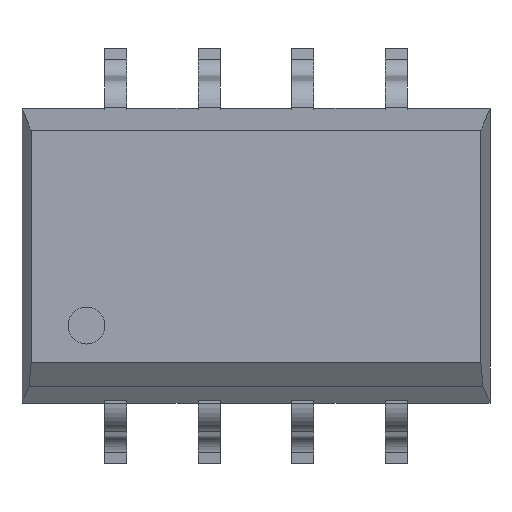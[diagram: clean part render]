
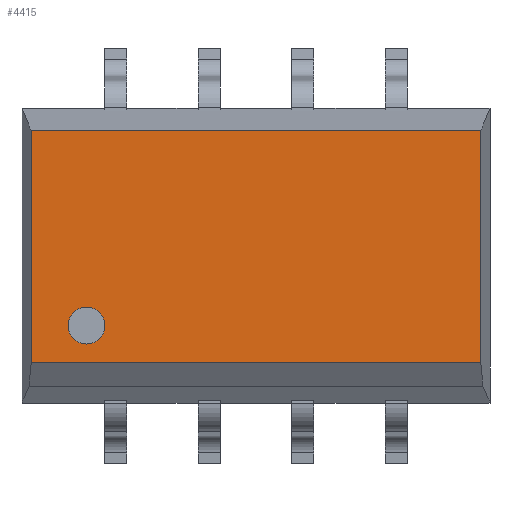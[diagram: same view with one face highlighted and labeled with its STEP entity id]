
A CAD part, top view. The second image highlights one B-rep face of the part: STEP entity #4415.
In plain terms, the highlighted planar face has unit normal (0, 0, 1).
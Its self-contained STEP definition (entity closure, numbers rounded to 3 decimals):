
#74 = VECTOR ( 'NONE', #3158, 1000. ) ;
#83 = LINE ( 'NONE', #5427, #2228 ) ;
#333 = CARTESIAN_POINT ( 'NONE',  ( -6.1, 3.4, 2. ) ) ;
#334 = EDGE_CURVE ( 'NONE', #5522, #3145, #3957, .T. ) ;
#469 = DIRECTION ( 'NONE',  ( 0., 1., 0. ) ) ;
#476 = LINE ( 'NONE', #4948, #3713 ) ;
#483 = DIRECTION ( 'NONE',  ( 0., 0., 1. ) ) ;
#563 = VECTOR ( 'NONE', #469, 1000. ) ;
#571 = VERTEX_POINT ( 'NONE', #3986 ) ;
#675 = CIRCLE ( 'NONE', #4424, 0.5 ) ;
#910 = CARTESIAN_POINT ( 'NONE',  ( -4.6, -1.9, 2. ) ) ;
#1161 = VERTEX_POINT ( 'NONE', #3707 ) ;
#1184 = LINE ( 'NONE', #3170, #74 ) ;
#1346 = DIRECTION ( 'NONE',  ( -1., 0., 0. ) ) ;
#1399 = CARTESIAN_POINT ( 'NONE',  ( -6.1, -2.9, 2. ) ) ;
#1470 = FACE_OUTER_BOUND ( 'NONE', #4149, .T. ) ;
#1548 = VERTEX_POINT ( 'NONE', #4863 ) ;
#1553 = ORIENTED_EDGE ( 'NONE', *, *, #334, .F. ) ;
#1578 = EDGE_CURVE ( 'NONE', #3145, #1548, #1184, .T. ) ;
#1631 = DIRECTION ( 'NONE',  ( 0., 0., -1. ) ) ;
#2228 = VECTOR ( 'NONE', #4982, 1000. ) ;
#2581 = VERTEX_POINT ( 'NONE', #2602 ) ;
#2602 = CARTESIAN_POINT ( 'NONE',  ( -5.1, -1.9, 2. ) ) ;
#2624 = FACE_BOUND ( 'NONE', #5118, .T. ) ;
#2627 = AXIS2_PLACEMENT_3D ( 'NONE', #3026, #483, #3460 ) ;
#2815 = AXIS2_PLACEMENT_3D ( 'NONE', #910, #3894, #1346 ) ;
#3025 = ORIENTED_EDGE ( 'NONE', *, *, #1578, .F. ) ;
#3026 = CARTESIAN_POINT ( 'NONE',  ( 0., 0., 2. ) ) ;
#3132 = EDGE_CURVE ( 'NONE', #1161, #2581, #675, .T. ) ;
#3145 = VERTEX_POINT ( 'NONE', #333 ) ;
#3158 = DIRECTION ( 'NONE',  ( 1., 0., 0. ) ) ;
#3170 = CARTESIAN_POINT ( 'NONE',  ( 6.35, 3.4, 2. ) ) ;
#3310 = ORIENTED_EDGE ( 'NONE', *, *, #3132, .T. ) ;
#3460 = DIRECTION ( 'NONE',  ( 0., -1., 0. ) ) ;
#3652 = EDGE_CURVE ( 'NONE', #1548, #571, #83, .T. ) ;
#3702 = ORIENTED_EDGE ( 'NONE', *, *, #4891, .F. ) ;
#3707 = CARTESIAN_POINT ( 'NONE',  ( -4.1, -1.9, 2. ) ) ;
#3713 = VECTOR ( 'NONE', #4105, 1000. ) ;
#3869 = CARTESIAN_POINT ( 'NONE',  ( -6.1, 4., 2. ) ) ;
#3894 = DIRECTION ( 'NONE',  ( 0., 0., -1. ) ) ;
#3957 = LINE ( 'NONE', #3869, #563 ) ;
#3986 = CARTESIAN_POINT ( 'NONE',  ( 6.1, -2.9, 2. ) ) ;
#4007 = ORIENTED_EDGE ( 'NONE', *, *, #3652, .F. ) ;
#4025 = ORIENTED_EDGE ( 'NONE', *, *, #4277, .T. ) ;
#4105 = DIRECTION ( 'NONE',  ( -1., 0., 0. ) ) ;
#4149 = EDGE_LOOP ( 'NONE', ( #3025, #1553, #3702, #4007 ) ) ;
#4166 = CARTESIAN_POINT ( 'NONE',  ( -4.6, -1.9, 2. ) ) ;
#4277 = EDGE_CURVE ( 'NONE', #2581, #1161, #4988, .T. ) ;
#4415 = ADVANCED_FACE ( 'NONE', ( #2624, #1470 ), #4687, .T. ) ;
#4424 = AXIS2_PLACEMENT_3D ( 'NONE', #4166, #1631, #4586 ) ;
#4586 = DIRECTION ( 'NONE',  ( -1., 0., 0. ) ) ;
#4687 = PLANE ( 'NONE',  #2627 ) ;
#4863 = CARTESIAN_POINT ( 'NONE',  ( 6.1, 3.4, 2. ) ) ;
#4891 = EDGE_CURVE ( 'NONE', #571, #5522, #476, .T. ) ;
#4948 = CARTESIAN_POINT ( 'NONE',  ( -3.175, -2.9, 2. ) ) ;
#4982 = DIRECTION ( 'NONE',  ( 0., -1., 0. ) ) ;
#4988 = CIRCLE ( 'NONE', #2815, 0.5 ) ;
#5118 = EDGE_LOOP ( 'NONE', ( #4025, #3310 ) ) ;
#5427 = CARTESIAN_POINT ( 'NONE',  ( 6.1, -4., 2. ) ) ;
#5522 = VERTEX_POINT ( 'NONE', #1399 ) ;
